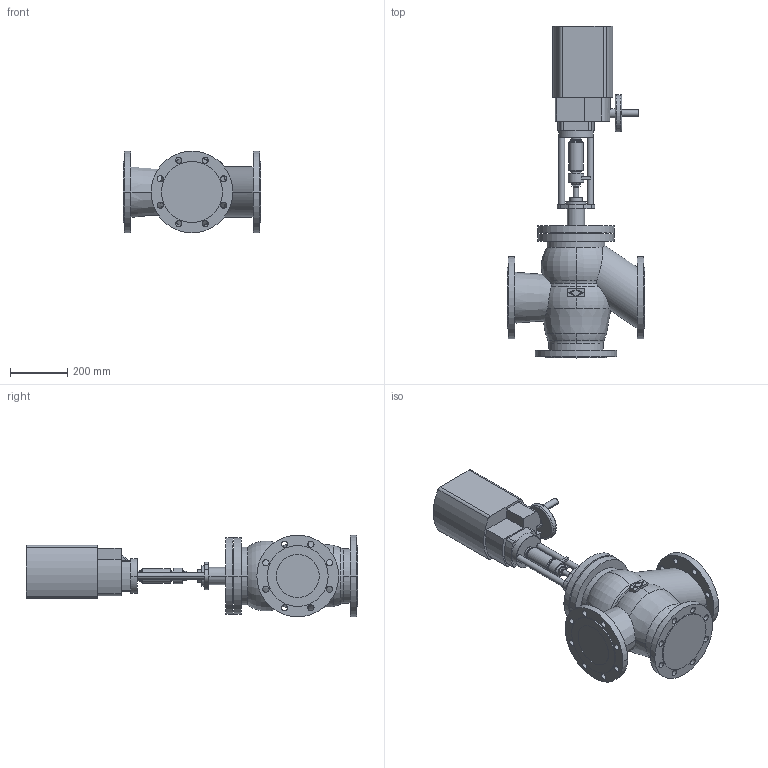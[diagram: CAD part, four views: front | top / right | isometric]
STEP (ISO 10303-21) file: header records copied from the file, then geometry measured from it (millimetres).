
FILE_DESCRIPTION( ( '' ), '1' );
FILE_NAME( 'F:/DE-SHS/TB/OR/04-Sonstiges/daten/files_3d/450-PREMIO-Plus-2G/c000006525.stp', '2017-02-22T12:51:30', ( '' ), ( '' ), ' ', ' ', ' ' );
FILE_SCHEMA( ( 'CONFIG_CONTROL_DESIGN' ) );
Length unit declared in the file: millimetre
Products named in the file (2): 1; 2
Bounding box: 480 x 1157 x 285 mm (x, y, z)
Volume: 41093377.2 mm3; surface area: 1393687.9 mm2
Topology: 2 solids, 2 shells, 268 faces, 684 edges, 448 vertices
Faces by surface type: cylinder 130, plane 95, torus 31, cone 12
Entity records: 8848 total; most frequent: CARTESIAN_POINT 1844, DIRECTION 1578, ORIENTED_EDGE 1368, EDGE_CURVE 684, AXIS2_PLACEMENT_3D 652, VERTEX_POINT 448, CIRCLE 380, EDGE_LOOP 344
